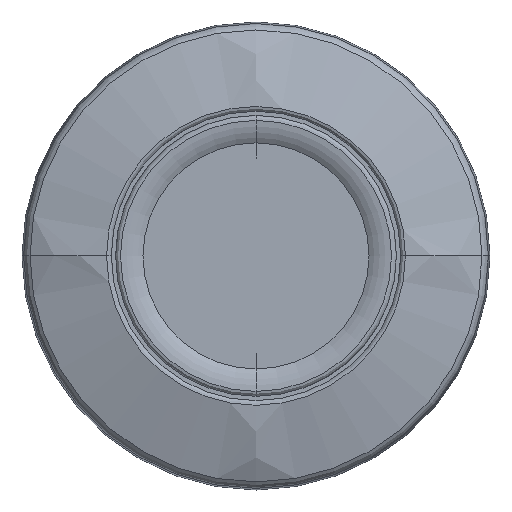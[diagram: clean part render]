
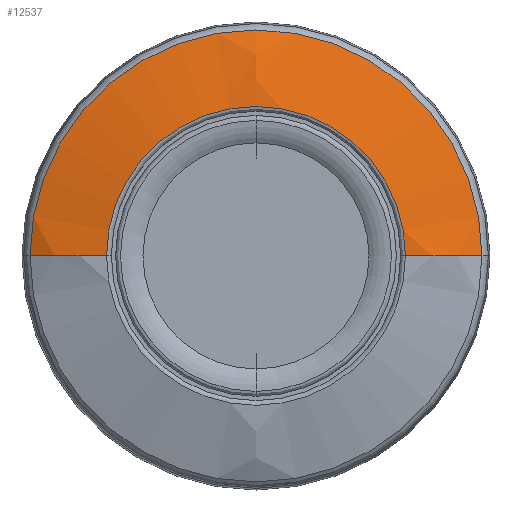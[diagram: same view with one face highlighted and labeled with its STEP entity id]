
A CAD part, top view. The second image highlights one B-rep face of the part: STEP entity #12537.
In plain terms, the highlighted free-form (B-spline) face has degree [3, 3] with [7, 4] control points.
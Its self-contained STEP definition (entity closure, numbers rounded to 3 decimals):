
#6687=CARTESIAN_POINT('',(0.,0.,3.249));
#6688=DIRECTION('',(0.,0.,-1.));
#6689=DIRECTION('',(-1.,0.,0.));
#6690=AXIS2_PLACEMENT_3D('',#6687,#6688,#6689);
#6692=CARTESIAN_POINT('',(0.,0.,3.249));
#6693=DIRECTION('',(0.,0.,-1.));
#6694=DIRECTION('',(1.,0.001,0.));
#6695=AXIS2_PLACEMENT_3D('',#6692,#6693,#6694);
#6697=CARTESIAN_POINT('',(9.45,0.,
-5.5));
#6698=DIRECTION('',(0.,-1.,0.));
#6699=DIRECTION('',(0.484,0.,0.875));
#6700=AXIS2_PLACEMENT_3D('',#6697,#6698,#6699);
#6702=CARTESIAN_POINT('',(0.,0.,4.5));
#6703=DIRECTION('',(0.,0.,1.));
#6704=DIRECTION('',(1.,0.,0.));
#6705=AXIS2_PLACEMENT_3D('',#6702,#6703,#6704);
#6707=CARTESIAN_POINT('',(0.,0.,4.5));
#6708=DIRECTION('',(0.,0.,1.));
#6709=DIRECTION('',(1.,0.002,0.));
#6710=AXIS2_PLACEMENT_3D('',#6707,#6708,#6709);
#6722=CARTESIAN_POINT('',(-9.45,0.,
-5.5));
#6723=DIRECTION('',(0.,1.,0.));
#6724=DIRECTION('',(-0.484,0.,0.875));
#6725=AXIS2_PLACEMENT_3D('',#6722,#6723,#6724);
#12165=CARTESIAN_POINT('',(-9.449,0.,4.5));
#12167=VERTEX_POINT('',#12165);
#12168=CARTESIAN_POINT('',(9.449,0.017,
4.5));
#12169=VERTEX_POINT('',#12168);
#12170=CARTESIAN_POINT('',(9.449,0.,
4.5));
#12171=VERTEX_POINT('',#12170);
#12176=CARTESIAN_POINT('',(14.293,0.,
3.249));
#12178=VERTEX_POINT('',#12176);
#12180=CARTESIAN_POINT('',(-14.293,0.,
3.249));
#12181=VERTEX_POINT('',#12180);
#12190=CARTESIAN_POINT('',(14.293,0.016,
3.249));
#12191=VERTEX_POINT('',#12190);
#12496=CARTESIAN_POINT('',(14.353,-0.903,
3.2));
#12497=CARTESIAN_POINT('',(12.813,-0.806,
4.074));
#12498=CARTESIAN_POINT('',(11.099,-0.698,
4.518));
#12499=CARTESIAN_POINT('',(9.33,-0.587,
4.499));
#12500=CARTESIAN_POINT('',(14.908,7.93,3.2));
#12501=CARTESIAN_POINT('',(13.309,7.079,4.074));
#12502=CARTESIAN_POINT('',(11.529,6.132,4.518));
#12503=CARTESIAN_POINT('',(9.691,5.155,4.499));
#12504=CARTESIAN_POINT('',(8.85,14.381,3.2));
#12505=CARTESIAN_POINT('',(7.901,12.838,4.074));
#12506=CARTESIAN_POINT('',(6.844,11.121,4.518));
#12507=CARTESIAN_POINT('',(5.753,9.348,4.499));
#12508=CARTESIAN_POINT('',(0.,14.381,3.2));
#12509=CARTESIAN_POINT('',(0.,12.838,4.074));
#12510=CARTESIAN_POINT('',(0.,11.121,4.518));
#12511=CARTESIAN_POINT('',(0.,9.348,4.499));
#12512=CARTESIAN_POINT('',(-8.85,14.381,
3.2));
#12513=CARTESIAN_POINT('',(-7.901,12.838,
4.074));
#12514=CARTESIAN_POINT('',(-6.844,11.121,
4.518));
#12515=CARTESIAN_POINT('',(-5.753,9.348,
4.499));
#12516=CARTESIAN_POINT('',(-14.908,7.93,
3.2));
#12517=CARTESIAN_POINT('',(-13.309,7.079,
4.074));
#12518=CARTESIAN_POINT('',(-11.529,6.132,
4.518));
#12519=CARTESIAN_POINT('',(-9.691,5.155,
4.499));
#12520=CARTESIAN_POINT('',(-14.353,-0.903,
3.2));
#12521=CARTESIAN_POINT('',(-12.813,-0.806,
4.074));
#12522=CARTESIAN_POINT('',(-11.099,-0.698,
4.518));
#12523=CARTESIAN_POINT('',(-9.33,-0.587,
4.499));
#12524=(BOUNDED_SURFACE()B_SPLINE_SURFACE(3,3,((#12496,#12497,#12498,#12499),(
#12500,#12501,#12502,#12503),(#12504,#12505,#12506,#12507),(#12508,#12509,
#12510,#12511),(#12512,#12513,#12514,#12515),(#12516,#12517,#12518,#12519),(
#12520,#12521,#12522,#12523)),.UNSPECIFIED.,.F.,.F.,.F.)B_SPLINE_SURFACE_WITH_KNOTS((4,3,4),(4,4),(0.,1.,2.),(0.,1.),.UNSPECIFIED.)GEOMETRIC_REPRESENTATION_ITEM()RATIONAL_B_SPLINE_SURFACE(((1.208,1.18,
1.18,1.208),(0.954,0.932,
0.932,0.954),(0.954,0.932,
0.932,0.954),(1.208,1.18,
1.18,1.208),(0.954,0.932,
0.932,0.954),(0.954,0.932,
0.932,0.954),(1.208,1.18,
1.18,1.208)))REPRESENTATION_ITEM('')SURFACE());
#12525=ORIENTED_EDGE('',*,*,#12453,.T.);
#12526=ORIENTED_EDGE('',*,*,#12451,.T.);
#12528=ORIENTED_EDGE('',*,*,#12527,.T.);
#12530=ORIENTED_EDGE('',*,*,#12529,.T.);
#12532=ORIENTED_EDGE('',*,*,#12531,.T.);
#12534=ORIENTED_EDGE('',*,*,#12533,.F.);
#12535=EDGE_LOOP('',(#12525,#12526,#12528,#12530,#12532,#12534));
#12536=FACE_OUTER_BOUND('',#12535,.F.);
#12537=ADVANCED_FACE('',(#12536),#12524,.T.);
#6691=CIRCLE('',#6690,14.293);
#6696=CIRCLE('',#6695,14.293);
#6701=CIRCLE('',#6700,10.);
#6706=CIRCLE('',#6705,9.449);
#6711=CIRCLE('',#6710,9.449);
#6726=CIRCLE('',#6725,10.);
#12451=EDGE_CURVE('',#12191,#12178,#6696,.T.);
#12453=EDGE_CURVE('',#12181,#12191,#6691,.T.);
#12527=EDGE_CURVE('',#12178,#12171,#6701,.T.);
#12529=EDGE_CURVE('',#12171,#12169,#6706,.T.);
#12531=EDGE_CURVE('',#12169,#12167,#6711,.T.);
#12533=EDGE_CURVE('',#12181,#12167,#6726,.T.);
